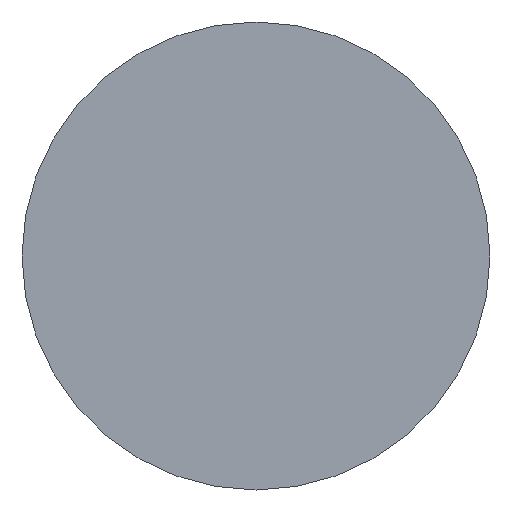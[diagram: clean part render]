
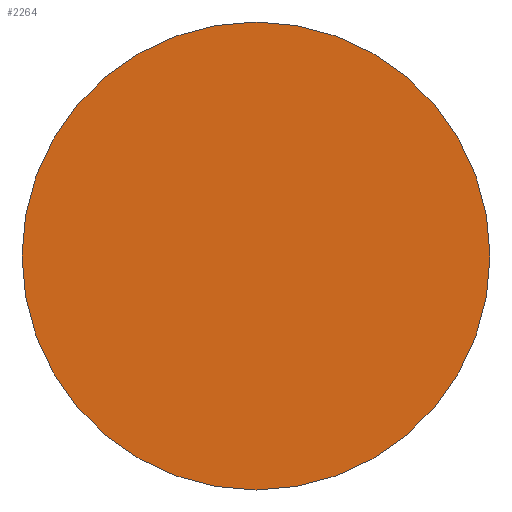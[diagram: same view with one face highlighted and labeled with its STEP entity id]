
A CAD part, front view. The second image highlights one B-rep face of the part: STEP entity #2264.
In plain terms, the highlighted planar face has unit normal (0, -1, 0).
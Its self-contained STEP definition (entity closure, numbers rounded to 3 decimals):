
#532 = DIRECTION ( 'NONE',  ( 0., 1., 0. ) ) ;
#816 = AXIS2_PLACEMENT_3D ( 'NONE', #5281, #1988, #2698 ) ;
#1001 = CARTESIAN_POINT ( 'NONE',  ( 0., -83., -165. ) ) ;
#1149 = AXIS2_PLACEMENT_3D ( 'NONE', #3847, #532, #6606 ) ;
#1375 = ORIENTED_EDGE ( 'NONE', *, *, #1534, .F. ) ;
#1494 = PLANE ( 'NONE',  #7033 ) ;
#1534 = EDGE_CURVE ( 'NONE', #4052, #4462, #3836, .T. ) ;
#1988 = DIRECTION ( 'NONE',  ( 0., 1., 0. ) ) ;
#2232 = DIRECTION ( 'NONE',  ( 0., 0., -1. ) ) ;
#2264 = ADVANCED_FACE ( 'NONE', ( #7665 ), #1494, .F. ) ;
#2698 = DIRECTION ( 'NONE',  ( 0., 0., -1. ) ) ;
#3836 = CIRCLE ( 'NONE', #1149, 165. ) ;
#3847 = CARTESIAN_POINT ( 'NONE',  ( 0., -83., 0. ) ) ;
#4052 = VERTEX_POINT ( 'NONE', #1001 ) ;
#4152 = CARTESIAN_POINT ( 'NONE',  ( 0., -83., 0. ) ) ;
#4462 = VERTEX_POINT ( 'NONE', #5366 ) ;
#5281 = CARTESIAN_POINT ( 'NONE',  ( 0., -83., 0. ) ) ;
#5366 = CARTESIAN_POINT ( 'NONE',  ( 0., -83., 165. ) ) ;
#5971 = EDGE_CURVE ( 'NONE', #4462, #4052, #6365, .T. ) ;
#6365 = CIRCLE ( 'NONE', #816, 165. ) ;
#6606 = DIRECTION ( 'NONE',  ( 0., 0., -1. ) ) ;
#6904 = DIRECTION ( 'NONE',  ( 0., 1., 0. ) ) ;
#7033 = AXIS2_PLACEMENT_3D ( 'NONE', #4152, #6904, #2232 ) ;
#7665 = FACE_OUTER_BOUND ( 'NONE', #8407, .T. ) ;
#8407 = EDGE_LOOP ( 'NONE', ( #1375, #8482 ) ) ;
#8482 = ORIENTED_EDGE ( 'NONE', *, *, #5971, .F. ) ;
